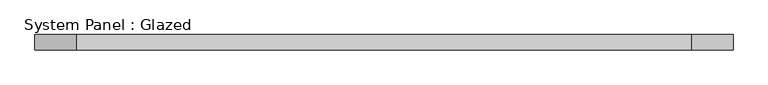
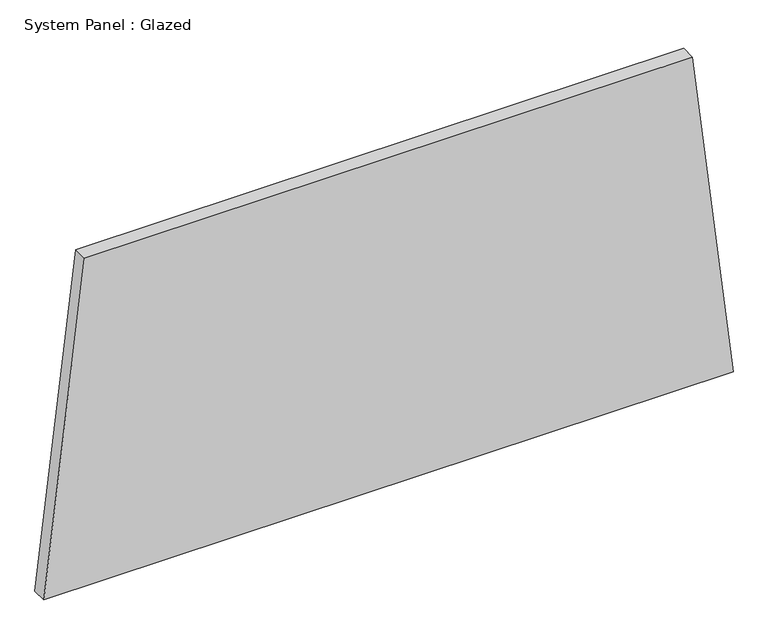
"""IFC4 building model written with IfcOpenShell, lengths in millimetres: plate geometry, System Panel : Glazed."""

from ifc_helpers import new_model, si_unit, frame, origin, place, context, project, spatial, polyline, outline, extrude, source, transform, mapped, element, save


def system_panel_glazed_4fd85c75(model_context):
    return source(origin(), model_context, "Body", "SweptSolid", [
        extrude(outline(polyline([(0.0, -576.4839086), (0.0, 576.4839086), (580.0408914, 508.3783689), (580.0408914, -508.3783689), (0.0, -576.4839086)])), frame((0.0, 19.05, 0.0), z_axis=(0.0, 1.0, 0.0), x_axis=(0.0, 0.0, 1.0)), (0.0, 0.0, 1.0), 25.4),
    ])


if __name__ == "__main__":
    model = new_model("IFC4")
    model_context = context("Model", 3, world=origin())
    ifc_project = project(units=[si_unit("LENGTHUNIT", "METRE", prefix="MILLI")], contexts=[model_context])
    site = spatial("IfcSite", under=ifc_project)
    building = spatial("IfcBuilding", under=site)
    placement = place(None, origin())
    system_panel_glazed_shape = system_panel_glazed_4fd85c75(model_context)
    element("IfcPlate", 1, ObjectType="System Panel : Glazed", at=placement, inside=building, context=model_context, shape_type="MappedRepresentation", body=[
        mapped(system_panel_glazed_shape, transform((0.0, 0.0, 0.0), x_axis=(1.0, 0.0, 0.0), y_axis=(0.0, 1.0, 0.0), z_axis=(0.0, 0.0, 1.0))),
    ])
    save(model, "model.ifc")
